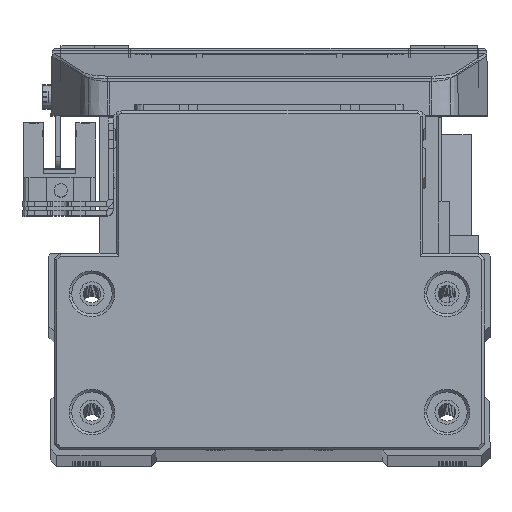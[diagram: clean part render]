
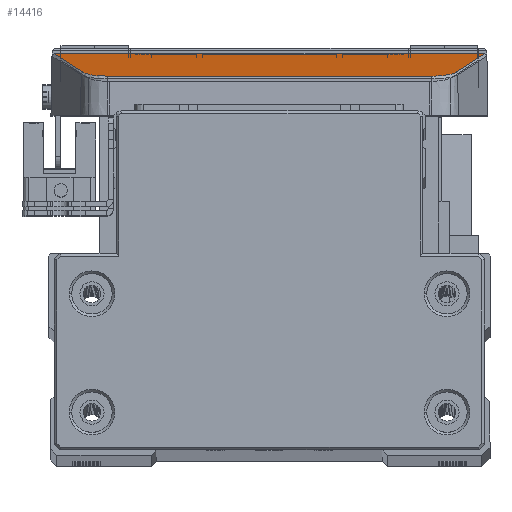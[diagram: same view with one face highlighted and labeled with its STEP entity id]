
A CAD part, top view. The second image highlights one B-rep face of the part: STEP entity #14416.
In plain terms, the highlighted planar face has unit normal (0, 0.98, 0.199) as drawn and (0, 0.98, -0.199) by its records, which use the part's own axes.
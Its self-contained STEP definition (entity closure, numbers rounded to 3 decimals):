
#549 = FACE_OUTER_BOUND ( 'NONE', #44159, .T. ) ;
#1578 = CARTESIAN_POINT ( 'NONE',  ( 34.396, 72.962, -285.357 ) ) ;
#2025 = AXIS2_PLACEMENT_3D ( 'NONE', #20773, #44954, #32787 ) ;
#2458 = CARTESIAN_POINT ( 'NONE',  ( 29.994, 72.29, -288.661 ) ) ;
#4062 = DIRECTION ( 'NONE',  ( -0.292, 0.191, 0.937 ) ) ;
#6663 =( BOUNDED_CURVE ( )  B_SPLINE_CURVE ( 3, ( #31358, #23476, #6780, #31718 ),
 .UNSPECIFIED., .F., .T. ) 
 B_SPLINE_CURVE_WITH_KNOTS ( ( 4, 4 ),
 ( 0., 1.269 ),
 .UNSPECIFIED. ) 
 CURVE ( )  GEOMETRIC_REPRESENTATION_ITEM ( )  RATIONAL_B_SPLINE_CURVE ( ( 1., 0.87, 0.87, 1. ) ) 
 REPRESENTATION_ITEM ( '' )  );
#6780 = CARTESIAN_POINT ( 'NONE',  ( -34.051, 72.54, -287.428 ) ) ;
#7274 = ORIENTED_EDGE ( 'NONE', *, *, #21111, .T. ) ;
#8768 = PLANE ( 'NONE',  #2025 ) ;
#9140 = VECTOR ( 'NONE', #13011, 1000. ) ;
#9828 = VERTEX_POINT ( 'NONE', #12171 ) ;
#12171 = CARTESIAN_POINT ( 'NONE',  ( 34.37, 72.945, -285.441 ) ) ;
#13011 = DIRECTION ( 'NONE',  ( -1., 0., 0. ) ) ;
#14035 = CARTESIAN_POINT ( 'NONE',  ( 33.751, 72.54, -287.428 ) ) ;
#14227 = CARTESIAN_POINT ( 'NONE',  ( 34.37, 72.945, -285.441 ) ) ;
#14416 = ADVANCED_FACE ( 'NONE', ( #549 ), #8768, .T. ) ;
#15540 = ORIENTED_EDGE ( 'NONE', *, *, #37211, .T. ) ;
#15708 = ORIENTED_EDGE ( 'NONE', *, *, #41270, .F. ) ;
#17548 = DIRECTION ( 'NONE',  ( -0.292, -0.191, -0.937 ) ) ;
#17662 = EDGE_CURVE ( 'NONE', #9828, #20122, #51990, .T. ) ;
#19205 = LINE ( 'NONE', #1578, #38430 ) ;
#19774 = LINE ( 'NONE', #37102, #43444 ) ;
#20122 = VERTEX_POINT ( 'NONE', #2458 ) ;
#20773 = CARTESIAN_POINT ( 'NONE',  ( 40.25, 85.625, -223.115 ) ) ;
#20973 = VERTEX_POINT ( 'NONE', #21878 ) ;
#21111 = EDGE_CURVE ( 'NONE', #25574, #34994, #6663, .T. ) ;
#21878 = CARTESIAN_POINT ( 'NONE',  ( 39.785, 76.48, -268.062 ) ) ;
#22267 = CARTESIAN_POINT ( 'NONE',  ( 29.994, 72.29, -288.661 ) ) ;
#23476 = CARTESIAN_POINT ( 'NONE',  ( -32.375, 72.29, -288.661 ) ) ;
#24485 = CARTESIAN_POINT ( 'NONE',  ( -34.67, 72.945, -285.441 ) ) ;
#25022 = ORIENTED_EDGE ( 'NONE', *, *, #35067, .T. ) ;
#25574 = VERTEX_POINT ( 'NONE', #40648 ) ;
#26563 = LINE ( 'NONE', #49705, #32980 ) ;
#29663 = CARTESIAN_POINT ( 'NONE',  ( 40.25, 72.29, -288.661 ) ) ;
#31358 = CARTESIAN_POINT ( 'NONE',  ( -30.294, 72.29, -288.661 ) ) ;
#31718 = CARTESIAN_POINT ( 'NONE',  ( -34.67, 72.945, -285.441 ) ) ;
#32787 = DIRECTION ( 'NONE',  ( 0., 0.199, 0.98 ) ) ;
#32980 = VECTOR ( 'NONE', #37590, 1000. ) ;
#34994 = VERTEX_POINT ( 'NONE', #24485 ) ;
#35067 = EDGE_CURVE ( 'NONE', #20122, #25574, #35398, .T. ) ;
#35398 = LINE ( 'NONE', #29663, #9140 ) ;
#37102 = CARTESIAN_POINT ( 'NONE',  ( -46.045, 80.372, -248.934 ) ) ;
#37211 = EDGE_CURVE ( 'NONE', #20973, #9828, #19205, .T. ) ;
#37590 = DIRECTION ( 'NONE',  ( -1., 0., 0. ) ) ;
#38179 = ORIENTED_EDGE ( 'NONE', *, *, #38771, .T. ) ;
#38430 = VECTOR ( 'NONE', #17548, 1000. ) ;
#38771 = EDGE_CURVE ( 'NONE', #34994, #50620, #19774, .T. ) ;
#39488 = CARTESIAN_POINT ( 'NONE',  ( -40.085, 76.48, -268.062 ) ) ;
#40648 = CARTESIAN_POINT ( 'NONE',  ( -30.294, 72.29, -288.661 ) ) ;
#41270 = EDGE_CURVE ( 'NONE', #20973, #50620, #26563, .T. ) ;
#42868 = CARTESIAN_POINT ( 'NONE',  ( 32.075, 72.29, -288.661 ) ) ;
#43444 = VECTOR ( 'NONE', #4062, 1000. ) ;
#44159 = EDGE_LOOP ( 'NONE', ( #15708, #15540, #48998, #25022, #7274, #38179 ) ) ;
#44954 = DIRECTION ( 'NONE',  ( 0., 0.98, -0.199 ) ) ;
#48998 = ORIENTED_EDGE ( 'NONE', *, *, #17662, .T. ) ;
#49705 = CARTESIAN_POINT ( 'NONE',  ( 40.25, 76.48, -268.062 ) ) ;
#50620 = VERTEX_POINT ( 'NONE', #39488 ) ;
#51990 =( BOUNDED_CURVE ( )  B_SPLINE_CURVE ( 3, ( #14227, #14035, #42868, #22267 ),
 .UNSPECIFIED., .F., .T. ) 
 B_SPLINE_CURVE_WITH_KNOTS ( ( 4, 4 ),
 ( 5.014, 6.283 ),
 .UNSPECIFIED. ) 
 CURVE ( )  GEOMETRIC_REPRESENTATION_ITEM ( )  RATIONAL_B_SPLINE_CURVE ( ( 1., 0.87, 0.87, 1. ) ) 
 REPRESENTATION_ITEM ( '' )  );
